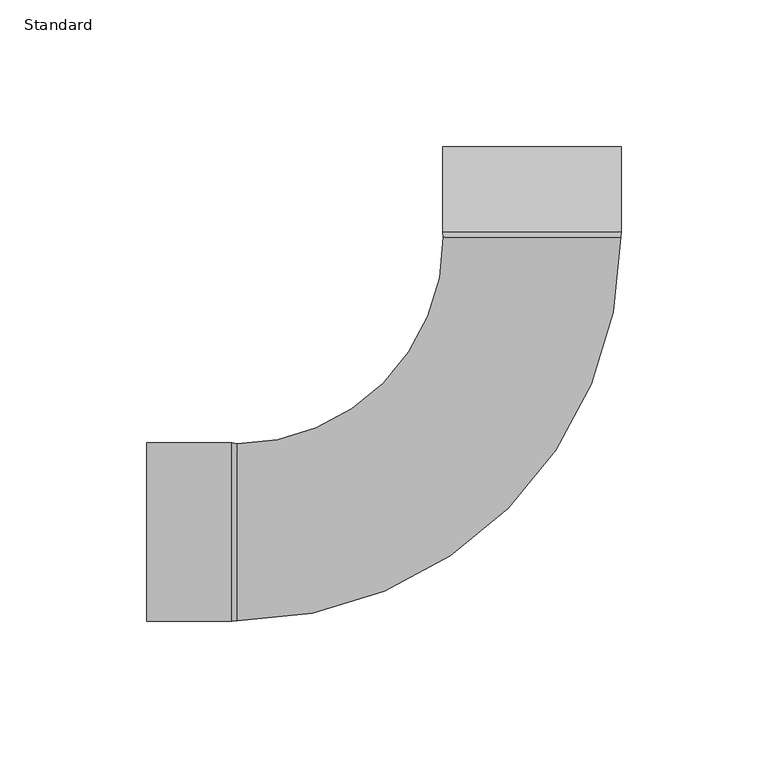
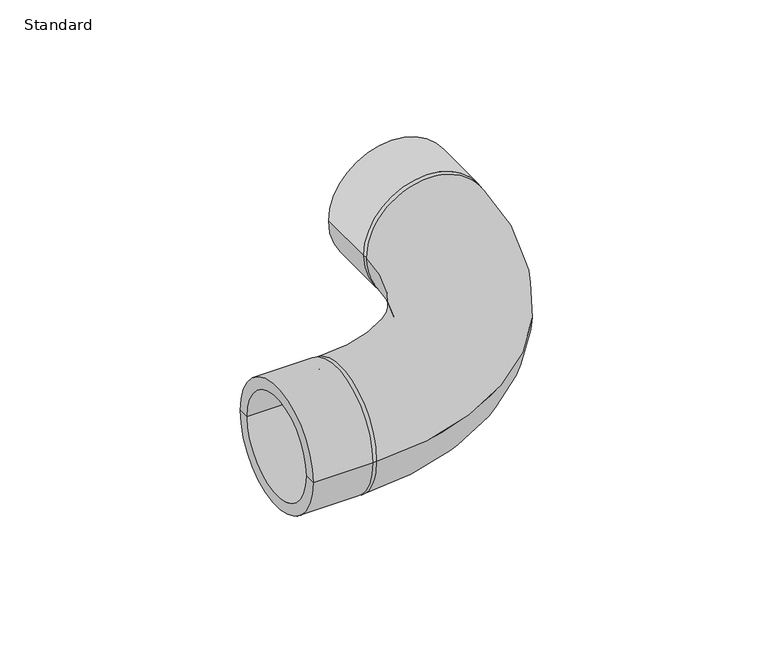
"""IFC4 building model written with IfcOpenShell, lengths in millimetres: pipe fitting geometry, Durapipe_PipeFitting_PVC_SR_Bend90deg : Standard."""

from ifc_helpers import new_model, si_unit, point, frame, origin, place, context, project, spatial, polyline, circle_curve, ellipse_curve, trimmed, source, transform, mapped, element, save
from ifc_brep_helpers import plane_surface, cylinder_surface, revolved_surface, advanced_brep


def standard_6a62e4eb(model_context):
    return source(origin(), model_context, "Body", "AdvancedBrep", [
        advanced_brep(
        [(30.5, 102.5, 0.0), (-30.5, 102.5, 0.0), (-30.5, 131.5, 0.0), (30.5, 131.5, 0.0), (30.2, 100.5, 0.0), (24.4323132, 100.5, -17.7511146), (9.3323132, 100.5, -28.7219068), (-9.3323132, 100.5, -28.7219068), (-24.4323132, 100.5, -17.7511146), (-30.2, 100.5, 0.0), (-24.4323132, 100.5, 17.7511146), (-9.3323132, 100.5, 28.7219068), (9.3323132, 100.5, 28.7219068), (24.4323132, 100.5, 17.7511146), (-25.0, 131.5, 0.0), (25.0, 131.5, 0.0), (-100.5, 30.2, 0.0), (-100.5, -30.2, 0.0), (-131.5, -25.0, 0.0), (-131.5, 25.0, 0.0), (-131.5, 30.5, 0.0), (-131.5, -30.5, 0.0), (-102.5, -30.5, 0.0), (-102.5, 30.5, 0.0), (-102.5, -25.0, 0.0), (-102.5, 25.0, 0.0), (-102.5, 0.0, 0.0), (25.0, 102.5, 0.0), (-25.0, 102.5, 0.0), (0.0, 102.5, 0.0)],
        [
            (0, 1, circle_curve(frame((0.0, 102.5, 0.0), z_axis=(0.0, 1.0, 0.0), x_axis=(-1.0, 0.0, 0.0)), 30.5)),
            (1, 2),
            (2, 3, circle_curve(frame((0.0, 131.5, 0.0), z_axis=(0.0, -1.0, 0.0), x_axis=(-1.0, 0.0, 0.0)), 30.5)),
            (3, 0),
            (1, 0, circle_curve(frame((0.0, 102.5, 0.0), z_axis=(0.0, 1.0, 0.0), x_axis=(-1.0, 0.0, 0.0)), 30.5)),
            (3, 2, circle_curve(frame((0.0, 131.5, 0.0), z_axis=(0.0, -1.0, 0.0), x_axis=(-1.0, 0.0, 0.0)), 30.5)),
            (0, 4),
            (4, 5, circle_curve(frame((0.0, 100.5, 0.0), z_axis=(0.0, 1.0, 0.0), x_axis=(-1.0, 0.0, 0.0)), 30.2)),
            (5, 6, circle_curve(frame((0.0, 100.5, 0.0), z_axis=(0.0, 1.0, 0.0), x_axis=(-1.0, 0.0, 0.0)), 30.2)),
            (6, 7, circle_curve(frame((0.0, 100.5, 0.0), z_axis=(0.0, 1.0, 0.0), x_axis=(-1.0, 0.0, 0.0)), 30.2)),
            (7, 8, circle_curve(frame((0.0, 100.5, 0.0), z_axis=(0.0, 1.0, 0.0), x_axis=(-1.0, 0.0, 0.0)), 30.2)),
            (8, 9, circle_curve(frame((0.0, 100.5, 0.0), z_axis=(0.0, 1.0, 0.0), x_axis=(-1.0, 0.0, 0.0)), 30.2)),
            (9, 1),
            (9, 10, circle_curve(frame((0.0, 100.5, 0.0), z_axis=(0.0, 1.0, 0.0), x_axis=(-1.0, 0.0, 0.0)), 30.2)),
            (10, 11, circle_curve(frame((0.0, 100.5, 0.0), z_axis=(0.0, 1.0, 0.0), x_axis=(-1.0, 0.0, 0.0)), 30.2)),
            (11, 12, circle_curve(frame((0.0, 100.5, 0.0), z_axis=(0.0, 1.0, 0.0), x_axis=(-1.0, 0.0, 0.0)), 30.2)),
            (12, 13, circle_curve(frame((0.0, 100.5, 0.0), z_axis=(0.0, 1.0, 0.0), x_axis=(-1.0, 0.0, 0.0)), 30.2)),
            (13, 4, circle_curve(frame((0.0, 100.5, 0.0), z_axis=(0.0, 1.0, 0.0), x_axis=(-1.0, 0.0, 0.0)), 30.2)),
            (2, 14),
            (14, 15, circle_curve(frame((0.0, 131.5, 0.0), z_axis=(0.0, -1.0, 0.0), x_axis=(-1.0, 0.0, 0.0)), 25.0)),
            (15, 3),
            (15, 14, circle_curve(frame((0.0, 131.5, 0.0), z_axis=(0.0, -1.0, 0.0), x_axis=(-1.0, 0.0, 0.0)), 25.0)),
            (9, 16, circle_curve(frame((-100.5, 100.5, 0.0), z_axis=(0.0, 0.0, -1.0), x_axis=(0.0, -1.0, 0.0)), 70.3)),
            (16, 17, circle_curve(frame((-100.5, 0.0, 0.0), z_axis=(1.0, 0.0, 0.0), x_axis=(0.0, 1.0, 0.0)), 30.2)),
            (17, 4, circle_curve(frame((-100.5, 100.5, 0.0), z_axis=(0.0, 0.0, 1.0), x_axis=(0.0, -1.0, 0.0)), 130.7)),
            (17, 16, circle_curve(frame((-100.5, 0.0, 0.0), z_axis=(1.0, 0.0, 0.0), x_axis=(0.0, 1.0, 0.0)), 30.2)),
            (18, 19, circle_curve(frame((-131.5, 0.0, 0.0), z_axis=(1.0, 0.0, 0.0), x_axis=(0.0, 1.0, 0.0)), 25.0)),
            (19, 20),
            (20, 21, circle_curve(frame((-131.5, 0.0, 0.0), z_axis=(-1.0, 0.0, 0.0), x_axis=(0.0, 1.0, 0.0)), 30.5)),
            (21, 18),
            (19, 18, circle_curve(frame((-131.5, 0.0, 0.0), z_axis=(1.0, 0.0, 0.0), x_axis=(0.0, 1.0, 0.0)), 25.0)),
            (21, 20, circle_curve(frame((-131.5, 0.0, 0.0), z_axis=(-1.0, 0.0, 0.0), x_axis=(0.0, 1.0, 0.0)), 30.5)),
            (22, 23, circle_curve(frame((-102.5, 0.0, 0.0), z_axis=(1.0, 0.0, 0.0), x_axis=(0.0, 1.0, 0.0)), 30.5)),
            (23, 16),
            (17, 22),
            (23, 22, circle_curve(frame((-102.5, 0.0, 0.0), z_axis=(1.0, 0.0, 0.0), x_axis=(0.0, 1.0, 0.0)), 30.5)),
            (20, 23),
            (22, 21),
            (18, 24),
            (24, 25, circle_curve(frame((-102.5, 0.0, 0.0), z_axis=(1.0, 0.0, 0.0), x_axis=(0.0, 1.0, 0.0)), 25.0)),
            (25, 19),
            (25, 24, circle_curve(frame((-102.5, 0.0, 0.0), z_axis=(1.0, 0.0, 0.0), x_axis=(0.0, 1.0, 0.0)), 25.0)),
            (24, 26),
            (26, 25),
            (27, 28, circle_curve(frame((0.0, 102.5, 0.0), z_axis=(0.0, 1.0, 0.0), x_axis=(-1.0, 0.0, 0.0)), 25.0)),
            (28, 29),
            (29, 27),
            (28, 27, circle_curve(frame((0.0, 102.5, 0.0), z_axis=(0.0, 1.0, 0.0), x_axis=(-1.0, 0.0, 0.0)), 25.0)),
            (14, 28),
            (27, 15),
        ],
        [
            cylinder_surface(frame((0.0, 2074.5, 0.0), z_axis=(0.0, -1.0, 0.0), x_axis=(-1.0, 0.0, 0.0)), 30.5),
            revolved_surface(polyline([(-30.5, 102.5, 0.0), (-30.2, 100.5, 0.0)]), (0.0, 2074.5, 0.0), (0.0, -1.0, 0.0)),
            plane_surface(frame((0.0, 131.5, 0.0), z_axis=(0.0, 1.0, 0.0), x_axis=(-1.0, 0.0, 0.0))),
            revolved_surface(trimmed(ellipse_curve(frame((-100.5, 0.0, 0.0), z_axis=(-1.0, 0.0, 0.0), x_axis=(0.0, 1.0, 0.0)), 30.2, 30.2), [point((-100.5, -30.2, 0.0))], [point((-100.5, 30.2, 0.0))], True, "CARTESIAN"), (-100.5, 100.5, 0.0), (0.0, 0.0, 1.0)),
            revolved_surface(trimmed(ellipse_curve(frame((-100.5, 0.0, 0.0), z_axis=(-1.0, 0.0, 0.0), x_axis=(0.0, 1.0, 0.0)), 30.2, 30.2), [point((-100.5, 30.2, 0.0))], [point((-100.5, -30.2, 0.0))], True, "CARTESIAN"), (-100.5, 100.5, 0.0), (0.0, 0.0, 1.0)),
            plane_surface(frame((-131.5, 0.0, 0.0), z_axis=(-1.0, 0.0, 0.0), x_axis=(0.0, 1.0, 0.0))),
            revolved_surface(polyline([(-100.5, 30.2, 0.0), (-102.5, 30.5, 0.0)]), (2017.5, 0.0, 0.0), (-1.0, 0.0, 0.0)),
            cylinder_surface(frame((2017.5, 0.0, 0.0), z_axis=(-1.0, 0.0, 0.0), x_axis=(0.0, 1.0, 0.0)), 30.5),
            revolved_surface(polyline([(-131.5, 25.0, 0.0), (-102.5, 25.0, 0.0)]), (2017.5, 0.0, 0.0), (-1.0, 0.0, 0.0)),
            plane_surface(frame((-102.5, 0.0, 0.0), z_axis=(-1.0, 0.0, 0.0), x_axis=(0.0, 1.0, 0.0))),
            plane_surface(frame((0.0, 102.5, 0.0), z_axis=(0.0, 1.0, 0.0), x_axis=(-1.0, 0.0, 0.0))),
            revolved_surface(polyline([(-25.0, 102.5, 0.0), (-25.0, 131.5, 0.0)]), (0.0, 2074.5, 0.0), (0.0, -1.0, 0.0)),
        ],
        [
            (0, [[1, 2, 3, 4]]),
            (0, [[-2, 5, -4, 6]]),
            (1, [[-1, 7, 8, 9, 10, 11, 12, 13]]),
            (1, [[-5, -13, 14, 15, 16, 17, 18, -7]]),
            (2, [[-3, 19, 20, 21]]),
            (2, [[-6, -21, 22, -19]]),
            (3, [[23, 24, 25, -18, -17, -16, -15, -14]]),
            (4, [[-23, -12, -11, -10, -9, -8, -25, 26]]),
            (5, [[27, 28, 29, 30]]),
            (5, [[-28, 31, -30, 32]]),
            (6, [[33, 34, -26, 35]]),
            (6, [[-34, 36, -35, -24]]),
            (7, [[-29, 37, -33, 38]]),
            (7, [[-32, -38, -36, -37]]),
            (8, [[-27, 39, 40, 41]]),
            (8, [[-31, -41, 42, -39]]),
            (9, [[-40, 43, 44]]),
            (9, [[-42, -44, -43]]),
            (10, [[45, 46, 47]]),
            (10, [[-46, 48, -47]]),
            (11, [[-20, 49, -45, 50]]),
            (11, [[-22, -50, -48, -49]]),
        ],
    ),
    ])


if __name__ == "__main__":
    model = new_model("IFC4")
    model_context = context("Model", 3, world=origin())
    ifc_project = project(units=[si_unit("LENGTHUNIT", "METRE", prefix="MILLI")], contexts=[model_context])
    site = spatial("IfcSite", under=ifc_project)
    building = spatial("IfcBuilding", under=site)
    placement = place(None, origin())
    standard_shape = standard_6a62e4eb(model_context)
    element("IfcPipeFitting", 1, ObjectType="Durapipe_PipeFitting_PVC_SR_Bend90deg : Standard", at=placement, inside=building, context=model_context, shape_type="MappedRepresentation", body=[
        mapped(standard_shape, transform((0.0, 0.0, 0.0), x_axis=(1.0, 0.0, 0.0), y_axis=(0.0, 1.0, 0.0), z_axis=(0.0, 0.0, 1.0))),
    ])
    save(model, "model.ifc")
